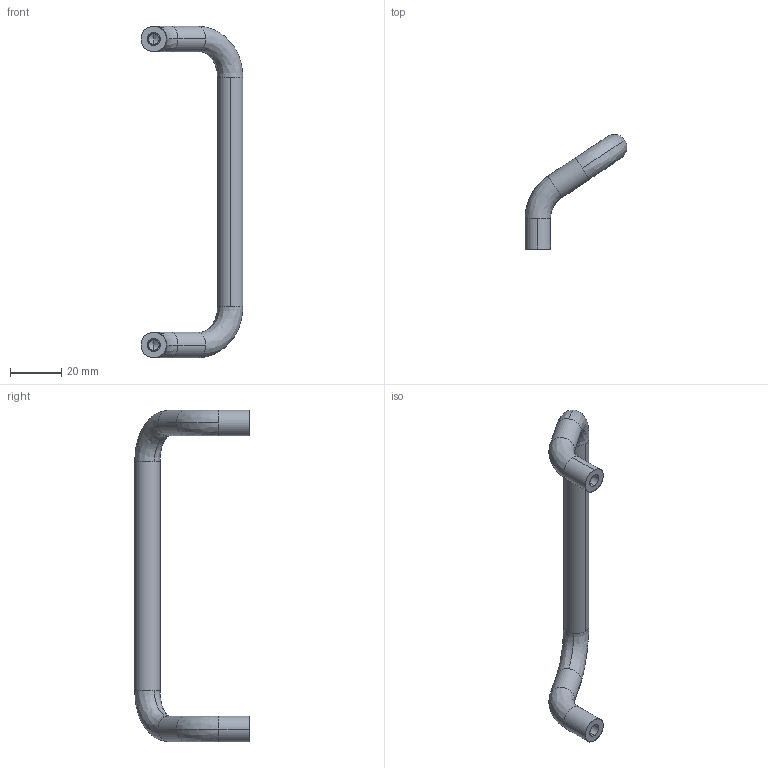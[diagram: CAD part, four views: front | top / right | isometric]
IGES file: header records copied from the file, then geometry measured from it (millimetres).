
Start section: SolidWorks IGES file using analytic representation for surfaces
Global section: file name: C:\Users\IanO\Desktop\Temp File\Process pending\79840_v2\79840_v2_20171115_IGES\79840.W0112.igs; native system: SolidWorks 2017; preprocessor: SolidWorks 2017; author: IanO; date: 171115.103803; units: millimetre
Bounding box: 39.99 x 45 x 130 mm (x, y, z)
Surface area: 7316.4 mm2 (no closed solid volume)
Topology: 0 solids, 0 shells, 34 faces, 396 edges, 392 vertices
Faces by surface type: revolution 22, bspline 12
